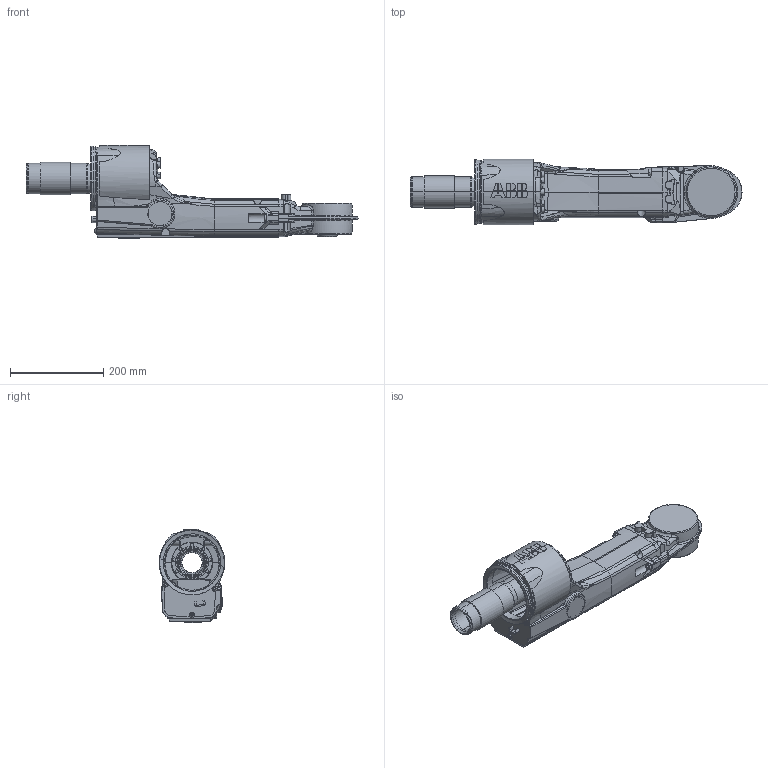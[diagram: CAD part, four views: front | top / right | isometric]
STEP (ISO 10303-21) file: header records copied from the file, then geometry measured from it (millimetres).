
FILE_DESCRIPTION (( 'STEP AP214' ), '1' );
FILE_NAME ('IRB1520ID_4_150__02_link4_step_j.STEP', '2013-04-09T05:03:43', ( 'ABB' ), ( 'ABB' ), 'SwSTEP 2.0', 'SolidWorks 2010', '' );
FILE_SCHEMA (( 'AUTOMOTIVE_DESIGN' ));
Length unit declared in the file: millimetre
Products named in the file (1): IRB1520ID_4_150__02_link4_step_j
Bounding box: 711 x 140.91 x 199.38 mm (x, y, z)
Volume: 2690789.4 mm3; surface area: 595045.9 mm2
Topology: 3 solids, 7 shells, 1190 faces, 3086 edges, 1950 vertices
Faces by surface type: plane 443, bspline 267, cylinder 261, torus 107, cone 106, sphere 6
Entity records: 68339 total; most frequent: CARTESIAN_POINT 28639, ORIENTED_EDGE 6170, DIRECTION 4665, EDGE_CURVE 3085, VERTEX_POINT 1950, AXIS2_PLACEMENT_3D 1735, EDGE_LOOP 1265, LINE 1195
